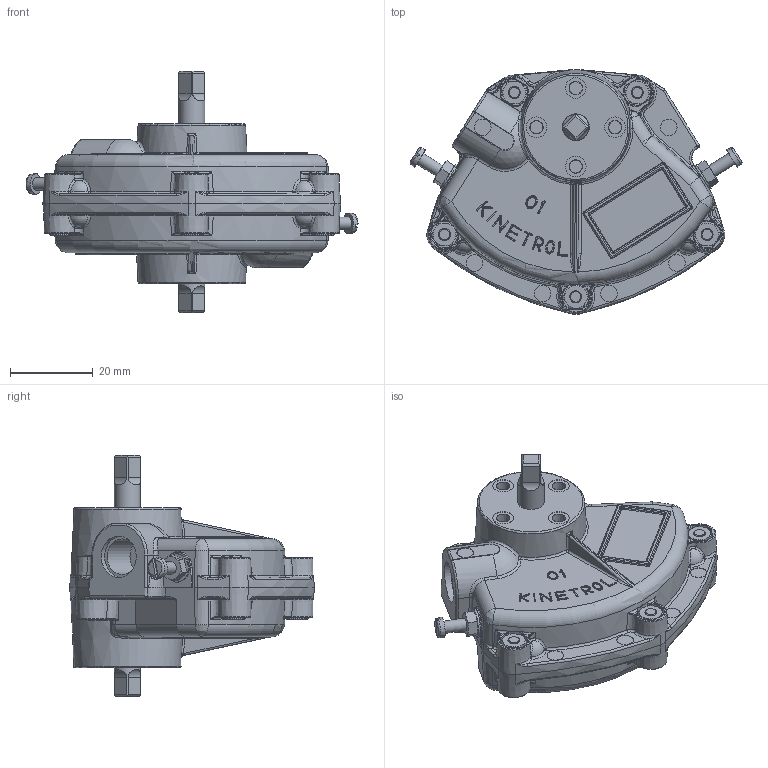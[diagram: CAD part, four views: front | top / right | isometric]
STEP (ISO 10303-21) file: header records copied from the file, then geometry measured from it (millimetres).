
FILE_DESCRIPTION( ( 'Unknown' ), '1' );
FILE_NAME( 'Z:/3D Models for Customers/ACTUATOR MODELS OMO TO 300 (.pwd & .stp & .igs & .asm)/014-100/014-100 .stp', 'Unknown', ( 'Unknown' ), ( 'Unknown' ), 'PSStep 16.0.42', 'Unknown', ' ' );
FILE_SCHEMA( ( 'AUTOMOTIVE_DESIGN { 1 0 10303 214 1 1 1 1 }' ) );
Length unit declared in the file: millimetre
Products named in the file (2): 15001 die cast case CHRIS SIMPLE
Bounding box: 80.3 x 59.23 x 58.47 mm (x, y, z)
Volume: 68855.8 mm3; surface area: 17844 mm2
Topology: 2 solids, 9 shells, 1517 faces, 3656 edges, 2062 vertices
Faces by surface type: plane 363, cylinder 339, torus 301, bspline 222, cone 168, sphere 124
Full cylindrical faces by diameter (mm): 3 x9, 3.8 x2, 4 x12, 5 x10, 5.5 x5, 6.33 x1, 6.85 x2, 7.938 x2, 8.6 x2, 10 x2
Entity records: 78456 total; most frequent: CARTESIAN_POINT 33981, DIRECTION 6914, ORIENTED_EDGE 6634, EDGE_CURVE 3317, AXIS2_PLACEMENT_3D 3030, VERTEX_POINT 1985, EDGE_LOOP 1716, CIRCLE 1657
